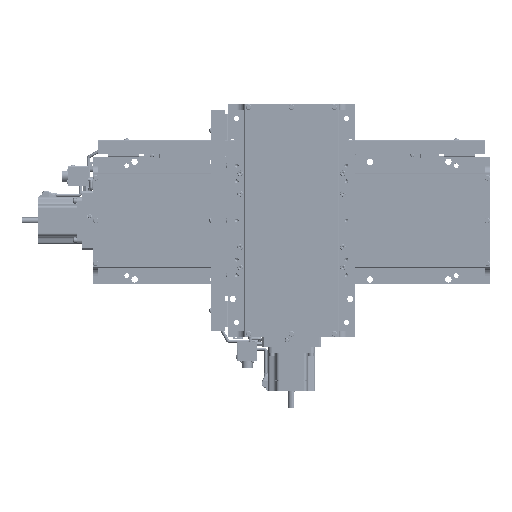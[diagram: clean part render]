
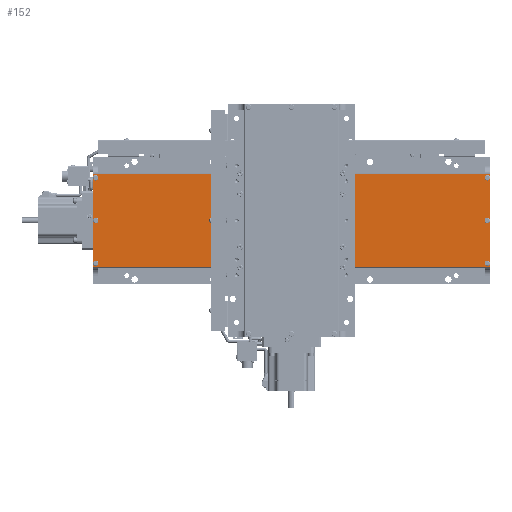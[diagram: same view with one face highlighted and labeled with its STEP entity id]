
A CAD part, top view. The second image highlights one B-rep face of the part: STEP entity #152.
In plain terms, the highlighted planar face has unit normal (0, 0, 1).
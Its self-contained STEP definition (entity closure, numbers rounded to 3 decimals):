
#152=ADVANCED_FACE('',(#5300,#5301,#5302,#5303,#5304,#5305,#5306),#5299,.T.);
#5299=PLANE('',#57120);
#5300=FACE_OUTER_BOUND('',#57121,.T.);
#5301=FACE_BOUND('',#57122,.T.);
#5302=FACE_BOUND('',#57123,.T.);
#5303=FACE_BOUND('',#57124,.T.);
#5304=FACE_BOUND('',#57125,.T.);
#5305=FACE_BOUND('',#57126,.T.);
#5306=FACE_BOUND('',#57127,.T.);
#57117=CARTESIAN_POINT('',(-263.,69.5,63.5));
#57118=DIRECTION('',(0.,0.,1.));
#57119=DIRECTION('',(0.,-1.,0.));
#57120=AXIS2_PLACEMENT_3D('',#57117,#57118,#57119);
#57121=EDGE_LOOP('',(#89274,#89275,#89276,#89277,#89278,#89279));
#57122=EDGE_LOOP('',(#89280,#89281));
#57123=EDGE_LOOP('',(#89282,#89283));
#57124=EDGE_LOOP('',(#89284,#89285));
#57125=EDGE_LOOP('',(#89286,#89287));
#57126=EDGE_LOOP('',(#89288,#89289));
#57127=EDGE_LOOP('',(#89290,#89291));
#89274=ORIENTED_EDGE('',*,*,#114416,.T.);
#89275=ORIENTED_EDGE('',*,*,#114417,.T.);
#89276=ORIENTED_EDGE('',*,*,#114386,.F.);
#89277=ORIENTED_EDGE('',*,*,#114418,.F.);
#89278=ORIENTED_EDGE('',*,*,#114370,.F.);
#89279=ORIENTED_EDGE('',*,*,#114419,.T.);
#89280=ORIENTED_EDGE('',*,*,#114420,.F.);
#89281=ORIENTED_EDGE('',*,*,#114421,.F.);
#89282=ORIENTED_EDGE('',*,*,#114422,.F.);
#89283=ORIENTED_EDGE('',*,*,#114423,.F.);
#89284=ORIENTED_EDGE('',*,*,#114424,.F.);
#89285=ORIENTED_EDGE('',*,*,#114425,.F.);
#89286=ORIENTED_EDGE('',*,*,#114426,.F.);
#89287=ORIENTED_EDGE('',*,*,#114427,.F.);
#89288=ORIENTED_EDGE('',*,*,#114428,.F.);
#89289=ORIENTED_EDGE('',*,*,#114429,.F.);
#89290=ORIENTED_EDGE('',*,*,#114430,.F.);
#89291=ORIENTED_EDGE('',*,*,#114431,.F.);
#114370=EDGE_CURVE('',#126989,#126996,#126997,.T.);
#114386=EDGE_CURVE('',#127101,#127108,#127109,.T.);
#114416=EDGE_CURVE('',#127317,#127318,#127319,.T.);
#114417=EDGE_CURVE('',#127318,#127108,#127325,.T.);
#114418=EDGE_CURVE('',#126996,#127101,#127331,.T.);
#114419=EDGE_CURVE('',#126989,#127317,#127337,.T.);
#114420=EDGE_CURVE('',#127343,#127344,#127345,.T.);
#114421=EDGE_CURVE('',#127344,#127343,#127351,.T.);
#114422=EDGE_CURVE('',#127357,#127358,#127359,.T.);
#114423=EDGE_CURVE('',#127358,#127357,#127365,.T.);
#114424=EDGE_CURVE('',#127371,#127372,#127373,.T.);
#114425=EDGE_CURVE('',#127372,#127371,#127379,.T.);
#114426=EDGE_CURVE('',#127385,#127386,#127387,.T.);
#114427=EDGE_CURVE('',#127386,#127385,#127393,.T.);
#114428=EDGE_CURVE('',#127399,#127400,#127401,.T.);
#114429=EDGE_CURVE('',#127400,#127399,#127407,.T.);
#114430=EDGE_CURVE('',#127413,#127414,#127415,.T.);
#114431=EDGE_CURVE('',#127414,#127413,#127421,.T.);
#126989=VERTEX_POINT('',#210325);
#126996=VERTEX_POINT('',#210330);
#126997=LINE('',#210331,#210332);
#127101=VERTEX_POINT('',#210396);
#127108=VERTEX_POINT('',#210400);
#127109=LINE('',#210401,#210402);
#127317=VERTEX_POINT('',#210524);
#127318=VERTEX_POINT('',#210525);
#127319=LINE('',#210526,#210527);
#127325=LINE('',#210529,#210530);
#127331=LINE('',#210532,#210533);
#127337=LINE('',#210535,#210536);
#127343=VERTEX_POINT('',#210538);
#127344=VERTEX_POINT('',#210539);
#127345=CIRCLE('',#210543,3.495);
#127351=CIRCLE('',#210547,3.495);
#127357=VERTEX_POINT('',#210548);
#127358=VERTEX_POINT('',#210549);
#127359=CIRCLE('',#210553,3.495);
#127365=CIRCLE('',#210557,3.495);
#127371=VERTEX_POINT('',#210558);
#127372=VERTEX_POINT('',#210559);
#127373=CIRCLE('',#210563,3.495);
#127379=CIRCLE('',#210567,3.495);
#127385=VERTEX_POINT('',#210568);
#127386=VERTEX_POINT('',#210569);
#127387=CIRCLE('',#210573,3.495);
#127393=CIRCLE('',#210577,3.495);
#127399=VERTEX_POINT('',#210578);
#127400=VERTEX_POINT('',#210579);
#127401=CIRCLE('',#210583,3.495);
#127407=CIRCLE('',#210587,3.495);
#127413=VERTEX_POINT('',#210588);
#127414=VERTEX_POINT('',#210589);
#127415=CIRCLE('',#210593,3.495);
#127421=CIRCLE('',#210597,3.495);
#210325=CARTESIAN_POINT('',(-253.,-59.5,63.5));
#210330=CARTESIAN_POINT('',(-253.,-35.,63.5));
#210331=CARTESIAN_POINT('',(-253.,-59.5,63.5));
#210332=VECTOR('',#210333,24.5);
#210333=DIRECTION('',(0.,1.,0.));
#210396=CARTESIAN_POINT('',(-253.,35.,63.5));
#210400=CARTESIAN_POINT('',(-253.,59.5,63.5));
#210401=CARTESIAN_POINT('',(-253.,35.,63.5));
#210402=VECTOR('',#210403,24.5);
#210403=DIRECTION('',(0.,1.,0.));
#210524=CARTESIAN_POINT('',(253.,-59.5,63.5));
#210525=CARTESIAN_POINT('',(253.,59.5,63.5));
#210526=CARTESIAN_POINT('',(253.,-59.5,63.5));
#210527=VECTOR('',#210528,119.);
#210528=DIRECTION('',(0.,1.,0.));
#210529=CARTESIAN_POINT('',(253.,59.5,63.5));
#210530=VECTOR('',#210531,506.);
#210531=DIRECTION('',(-1.,0.,0.));
#210532=CARTESIAN_POINT('',(-253.,-35.,63.5));
#210533=VECTOR('',#210534,70.);
#210534=DIRECTION('',(0.,1.,0.));
#210535=CARTESIAN_POINT('',(-253.,-59.5,63.5));
#210536=VECTOR('',#210537,506.);
#210537=DIRECTION('',(1.,0.,0.));
#210538=CARTESIAN_POINT('',(-249.5,3.495,63.5));
#210539=CARTESIAN_POINT('',(-249.5,-3.495,63.5));
#210540=CARTESIAN_POINT('',(-249.5,0.,63.5));
#210541=DIRECTION('',(0.,0.,1.));
#210542=DIRECTION('',(0.,-1.,0.));
#210543=AXIS2_PLACEMENT_3D('',#210540,#210541,#210542);
#210544=CARTESIAN_POINT('',(-249.5,0.,63.5));
#210545=DIRECTION('',(0.,0.,1.));
#210546=DIRECTION('',(0.,-1.,0.));
#210547=AXIS2_PLACEMENT_3D('',#210544,#210545,#210546);
#210548=CARTESIAN_POINT('',(-249.5,57.995,63.5));
#210549=CARTESIAN_POINT('',(-249.5,51.005,63.5));
#210550=CARTESIAN_POINT('',(-249.5,54.5,63.5));
#210551=DIRECTION('',(0.,0.,1.));
#210552=DIRECTION('',(0.,-1.,0.));
#210553=AXIS2_PLACEMENT_3D('',#210550,#210551,#210552);
#210554=CARTESIAN_POINT('',(-249.5,54.5,63.5));
#210555=DIRECTION('',(0.,0.,1.));
#210556=DIRECTION('',(0.,-1.,0.));
#210557=AXIS2_PLACEMENT_3D('',#210554,#210555,#210556);
#210558=CARTESIAN_POINT('',(249.5,-51.005,63.5));
#210559=CARTESIAN_POINT('',(249.5,-57.995,63.5));
#210560=CARTESIAN_POINT('',(249.5,-54.5,63.5));
#210561=DIRECTION('',(0.,0.,1.));
#210562=DIRECTION('',(0.,-1.,0.));
#210563=AXIS2_PLACEMENT_3D('',#210560,#210561,#210562);
#210564=CARTESIAN_POINT('',(249.5,-54.5,63.5));
#210565=DIRECTION('',(0.,0.,1.));
#210566=DIRECTION('',(0.,-1.,0.));
#210567=AXIS2_PLACEMENT_3D('',#210564,#210565,#210566);
#210568=CARTESIAN_POINT('',(249.5,3.495,63.5));
#210569=CARTESIAN_POINT('',(249.5,-3.495,63.5));
#210570=CARTESIAN_POINT('',(249.5,0.,63.5));
#210571=DIRECTION('',(0.,0.,1.));
#210572=DIRECTION('',(0.,-1.,0.));
#210573=AXIS2_PLACEMENT_3D('',#210570,#210571,#210572);
#210574=CARTESIAN_POINT('',(249.5,0.,63.5));
#210575=DIRECTION('',(0.,0.,1.));
#210576=DIRECTION('',(0.,-1.,0.));
#210577=AXIS2_PLACEMENT_3D('',#210574,#210575,#210576);
#210578=CARTESIAN_POINT('',(249.5,57.995,63.5));
#210579=CARTESIAN_POINT('',(249.5,51.005,63.5));
#210580=CARTESIAN_POINT('',(249.5,54.5,63.5));
#210581=DIRECTION('',(0.,0.,1.));
#210582=DIRECTION('',(0.,-1.,0.));
#210583=AXIS2_PLACEMENT_3D('',#210580,#210581,#210582);
#210584=CARTESIAN_POINT('',(249.5,54.5,63.5));
#210585=DIRECTION('',(0.,0.,1.));
#210586=DIRECTION('',(0.,-1.,0.));
#210587=AXIS2_PLACEMENT_3D('',#210584,#210585,#210586);
#210588=CARTESIAN_POINT('',(-249.5,-51.005,63.5));
#210589=CARTESIAN_POINT('',(-249.5,-57.995,63.5));
#210590=CARTESIAN_POINT('',(-249.5,-54.5,63.5));
#210591=DIRECTION('',(0.,0.,1.));
#210592=DIRECTION('',(0.,-1.,0.));
#210593=AXIS2_PLACEMENT_3D('',#210590,#210591,#210592);
#210594=CARTESIAN_POINT('',(-249.5,-54.5,63.5));
#210595=DIRECTION('',(0.,0.,1.));
#210596=DIRECTION('',(0.,-1.,0.));
#210597=AXIS2_PLACEMENT_3D('',#210594,#210595,#210596);
